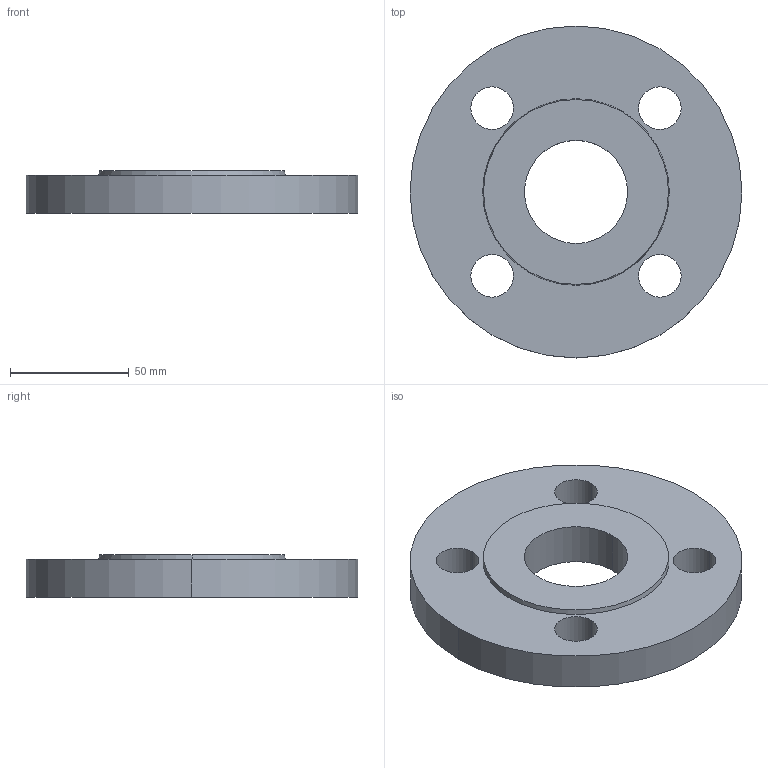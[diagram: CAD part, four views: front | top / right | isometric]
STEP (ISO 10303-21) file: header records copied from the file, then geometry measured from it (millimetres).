
FILE_DESCRIPTION (( 'STEP AP214' ), '1' );
FILE_NAME ('PN40 DN32 Type 01 - Type B Face.STEP', '2018-12-30T00:10:56', ( '' ), ( '' ), 'SwSTEP 2.0', 'SolidWorks 2019', '' );
FILE_SCHEMA (( 'AUTOMOTIVE_DESIGN' ));
Length unit declared in the file: millimetre
Products named in the file (1): PN40 DN32 Type 01 - Type B Face
Bounding box: 140 x 140 x 18 mm (x, y, z)
Volume: 212907.2 mm3; surface area: 39308.8 mm2
Topology: 1 solids, 1 shells, 17 faces, 42 edges, 28 vertices
Faces by surface type: cylinder 12, plane 3, cone 2
Entity records: 578 total; most frequent: DIRECTION 106, CARTESIAN_POINT 88, ORIENTED_EDGE 84, AXIS2_PLACEMENT_3D 46, EDGE_CURVE 42, EDGE_LOOP 28, CIRCLE 28, VERTEX_POINT 28
